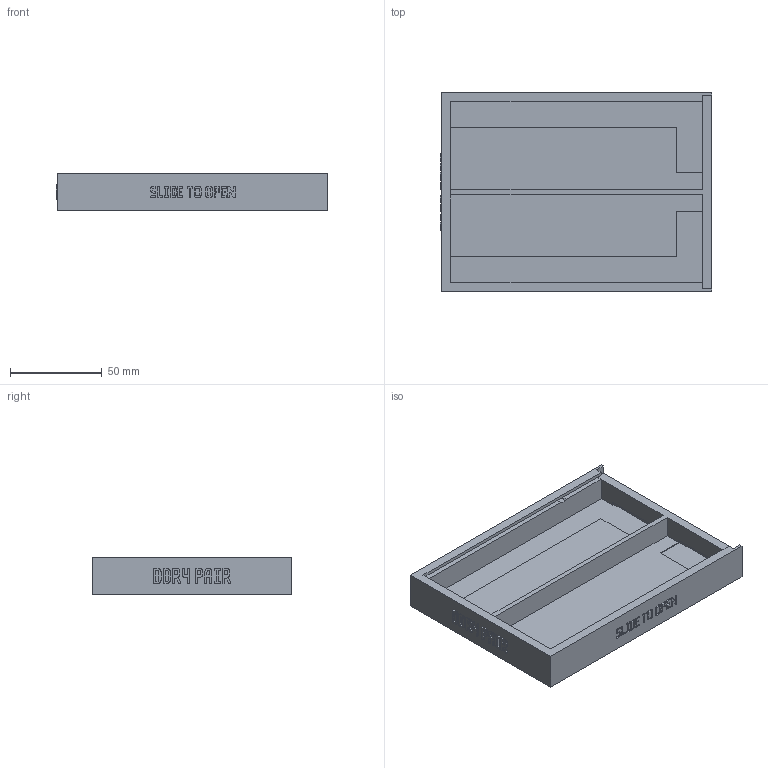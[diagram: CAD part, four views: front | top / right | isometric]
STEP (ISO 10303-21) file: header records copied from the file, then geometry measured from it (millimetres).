
FILE_DESCRIPTION(('Open CASCADE Model'),'2;1');
FILE_NAME('Open CASCADE Shape Model','2026-11-03T14:22:01',('Author'),( 'Open CASCADE'),'Open CASCADE STEP processor 8.0','build123d', 'Unknown');
FILE_SCHEMA(('AUTOMOTIVE_DESIGN { 1 0 10303 214 1 1 1 1 }'));
Products named in the file (1): COMPOUND
Bounding box: 147.85 x 108.4 x 20.5 mm (x, y, z)
Volume: 94999.7 mm3; surface area: 55609.8 mm2
Topology: 1 solids, 1 shells, 2772 faces, 8176 edges, 5450 vertices
Faces by surface type: plane 2772
Entity records: 196663 total; most frequent: CARTESIAN_POINT 32790, DIRECTION 30035, LINE 24489, VECTOR 24489, ORIENTED_EDGE 16352, PCURVE 16352, DEFINITIONAL_REPRESENTATION 16352, EDGE_CURVE 8176
